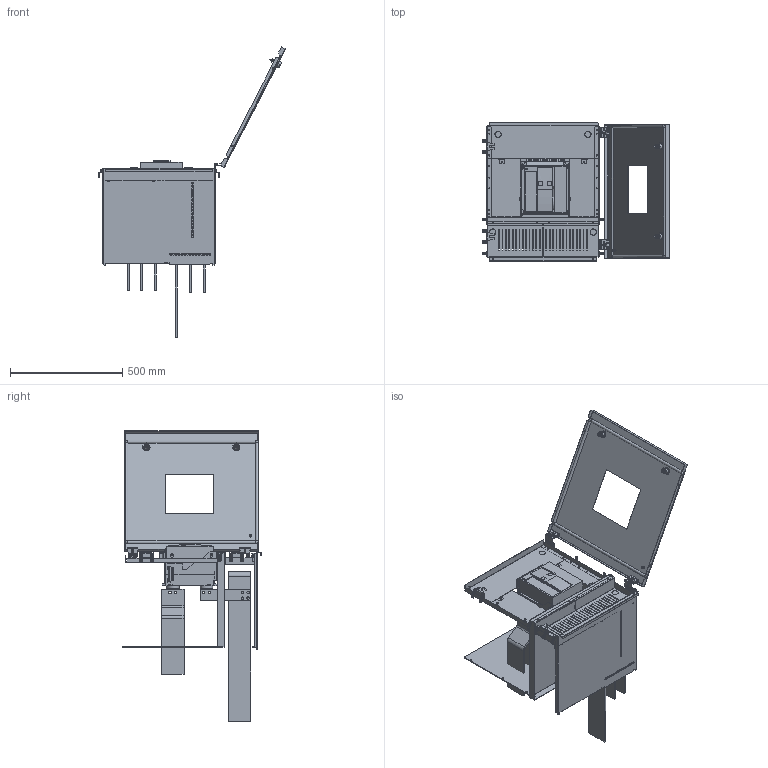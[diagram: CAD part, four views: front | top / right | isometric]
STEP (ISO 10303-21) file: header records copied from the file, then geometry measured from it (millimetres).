
FILE_DESCRIPTION(('CAx-IF Rec.Pracs.---Model Styling and Organization---1.2---2011-12-15','CAx-IF Rec.Pracs.---Geometric and Assembly Validation Properties---4.1---2014-06-16','CAx-IF Rec.Pracs.---PMI Polyline Presentation---2.0---2013-05-24'),'2;1');
FILE_NAME('R5M212IB3H61121R.stp','2021-05-05T12:46:21+03:00',(''),(''),'STEP Interface 4.4 by CT CoreTechnologie','3D_Evolution4.4 by CT CoreTechnologie','');
FILE_SCHEMA(('AUTOMOTIVE_DESIGN { 1 0 10303 214 1 1 1 1 }'));
Length unit declared in the file: millimetre
Products named in the file (37): R5M212IB3H61121R(äâóñòîðîííèé); M6 x 16-DIN 7991 ISR_thread; SHNDO1_-00; AC00C485; SHNDDR1F_-00; RB.1233.00.00.0_-00; RB.1591.00.00.0_-00; RB.1226.00.00.0_-00; RB.1227.00.00.0_-00; RB.0687.00.00.1_-00; SHNDO2_-00; RB.0116.00.00.3_-00; SHNDT2F_-00; MS737-1-1(1); MS737-1-1 Z_ ªàëâ; MS737-1-1 stop_fixed; SHNDT1F_-00; MS737-1-1(2); Masterpact NT16 F; Basic circuit breaker Masterpact NT06 to NT16 3P Fixed; Rear vertical connection Masterpact NT F(1); 0444151601_S; Rear vertical connection Masterpact NT F(2); RB.1227.00.00.0_-01; RB.1436.00.00.0_-00; RB.1435.00.00.0_-00; SHNDT3F_-00; RB.1437.00.00.0_-00; RB.1437.00.00.0_-01; RB.1438.00.00.0 ÑÁ_-00 (NT06;16 F); RB.1438.00.01.0_-00 (NT06;16 F); PF 7x14 MCC2.0_0600x0600; AC00C266; AC00C061_AC00C061; Ì6õ12-A5100231_straight; SHNDDR3F_-00; SHNDDR2F_-00
Assembly tree (73 placements, depth 4):
  R5M212IB3H61121R(äâóñòîðîííèé)
    M6 x 16-DIN 7991 ISR_thread  x12
    SHNDO1_-00  x3
    AC00C485  x12
    SHNDDR1F_-00
    RB.1233.00.00.0_-00
    RB.1591.00.00.0_-00
    RB.1226.00.00.0_-00
    RB.1227.00.00.0_-00
    RB.0687.00.00.1_-00  x2
    SHNDO2_-00  x3
    RB.0116.00.00.3_-00  x2
    SHNDT2F_-00
    MS737-1-1(1)
      MS737-1-1 Z_ ªàëâ
      MS737-1-1 stop_fixed
    SHNDT1F_-00
    MS737-1-1(2)
      MS737-1-1 Z_ ªàëâ
      MS737-1-1 stop_fixed
    Masterpact NT16 F
      Basic circuit breaker Masterpact NT06 to NT16 3P Fixed
      Rear vertical connection Masterpact NT F(1)
        0444151601_S  x3
      Rear vertical connection Masterpact NT F(2)
        0444151601_S  x3
    RB.1227.00.00.0_-01
    RB.1436.00.00.0_-00
    RB.1435.00.00.0_-00  x2
    SHNDT3F_-00
    RB.1437.00.00.0_-00
    RB.1437.00.00.0_-01
    RB.1438.00.00.0 ÑÁ_-00 (NT06;16 F)
      RB.1438.00.01.0_-00 (NT06;16 F)
      PF 7x14 MCC2.0_0600x0600
      AC00C266  x2
      AC00C061_AC00C061
      Ì6õ12-A5100231_straight
    SHNDDR3F_-00
    SHNDDR2F_-00
Bounding box: 831.99 x 617 x 1292.39 mm (x, y, z)
Surface area: 4586292.3 mm2 (no closed solid volume)
Topology: 0 solids, 105 shells, 4059 faces, 10712 edges, 6853 vertices
Faces by surface type: plane 2368, cylinder 1313, bspline 378
Entity records: 84039 total; most frequent: CARTESIAN_POINT 17794, ORIENTED_EDGE 13496, DIRECTION 12840, EDGE_CURVE 6748, VECTOR 5294, LINE 5294, VERTEX_POINT 4423, AXIS2_PLACEMENT_3D 3773
